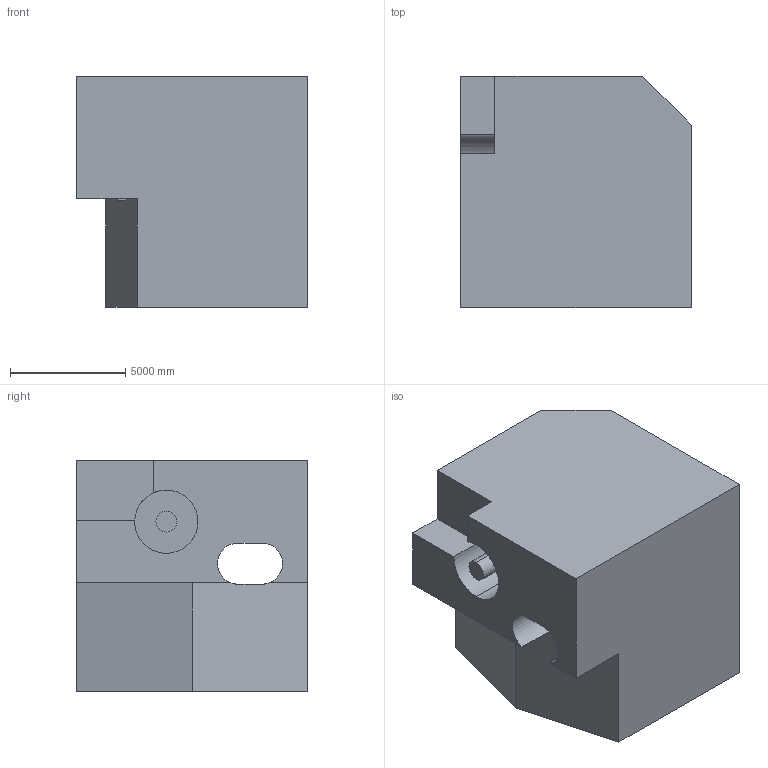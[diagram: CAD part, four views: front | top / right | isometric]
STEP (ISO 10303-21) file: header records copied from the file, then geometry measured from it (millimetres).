
FILE_DESCRIPTION (( 'STEP AP203' ), '1' );
FILE_NAME ('1443.STEP', '2022-08-18T14:30:27', ( 'user' ), ( '' ), 'SwSTEP 2.0', 'SolidWorks 2021', '' );
FILE_SCHEMA (( 'CONFIG_CONTROL_DESIGN' ));
Length unit declared in the file: centimetre
Products named in the file (1): 1443
Bounding box: 10000 x 10000 x 10000 mm (x, y, z)
Volume: 811321446138 mm3; surface area: 659594275.3 mm2
Topology: 1 solids, 1 shells, 24 faces, 66 edges, 44 vertices
Faces by surface type: plane 18, cylinder 6
Entity records: 845 total; most frequent: CARTESIAN_POINT 141, ORIENTED_EDGE 132, DIRECTION 128, EDGE_CURVE 66, VECTOR 50, LINE 50, VERTEX_POINT 44, AXIS2_PLACEMENT_3D 39
